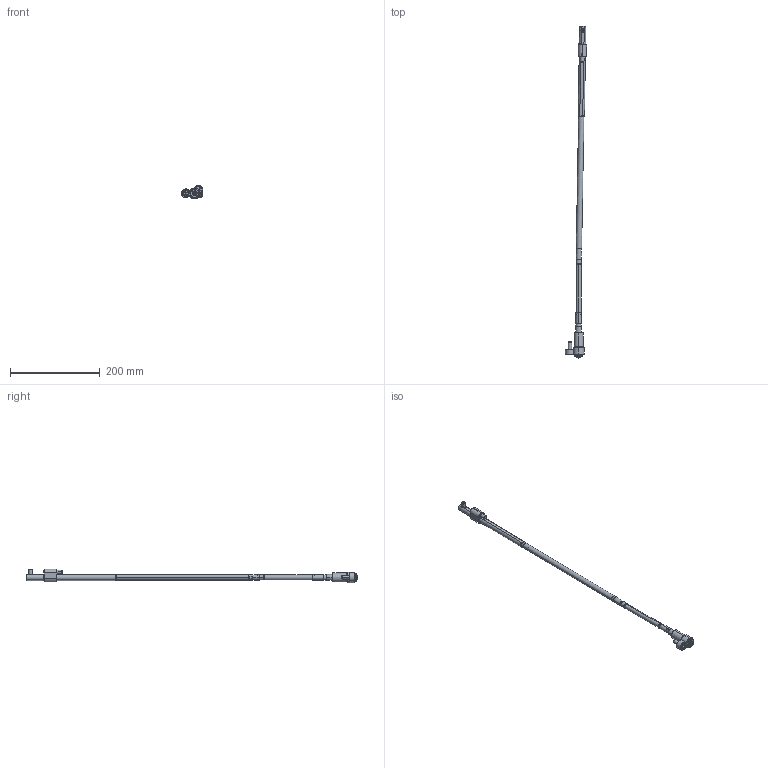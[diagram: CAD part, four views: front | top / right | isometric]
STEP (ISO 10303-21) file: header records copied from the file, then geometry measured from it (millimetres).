
FILE_DESCRIPTION (( 'STEP AP214' ), '1' );
FILE_NAME ('WL120100-INJ 1°.STEP', '2021-03-19T15:35:04', ( '' ), ( '' ), 'SwSTEP 2.0', 'SolidWorks 2019', '' );
FILE_SCHEMA (( 'AUTOMOTIVE_DESIGN' ));
Length unit declared in the file: millimetre
Products named in the file (17): Web-WL12-A1; WL120100-D; 1DIN912820_DIN 912 M8 x 20 --- 20C; Web-WL12-F00.SLDPRT; 1DIN912645_DIN 912 M6 x 45 --- 45C; WL120100-E; 3IMAN5X3-150_con sellador; Web-WL12-XX_OFF-WL120100-1; WL120100-B; Web-WL12-A3; 9DR2808-TOR; Web-WL12-F01; WL120100-B1; Web-WL12-A8; WL120100-INJ 1°; Web-WL12-A2; 8WL12EJEP
Assembly tree (16 placements, depth 3):
  WL120100-INJ 1°
    Web-WL12-A8
    Web-WL12-XX_OFF-WL120100-1
    Web-WL12-A3
    Web-WL12-A2
    Web-WL12-A1
    Web-WL12-F00.SLDPRT
      Web-WL12-F01
      1DIN912820_DIN 912 M8 x 20 --- 20C
      1DIN912645_DIN 912 M6 x 45 --- 45C
    WL120100-D
    8WL12EJEP
    WL120100-E
    9DR2808-TOR
    WL120100-B
      WL120100-B1
      3IMAN5X3-150_con sellador
Bounding box: 46.92 x 738.04 x 29.9 mm (x, y, z)
Volume: 113342.5 mm3; surface area: 49842.6 mm2
Topology: 15 solids, 15 shells, 432 faces, 906 edges, 525 vertices
Faces by surface type: plane 139, cylinder 123, cone 120, torus 50
Entity records: 13661 total; most frequent: DIRECTION 2240, CARTESIAN_POINT 2104, ORIENTED_EDGE 1788, AXIS2_PLACEMENT_3D 929, EDGE_CURVE 894, VERTEX_POINT 525, EDGE_LOOP 477, CIRCLE 476
